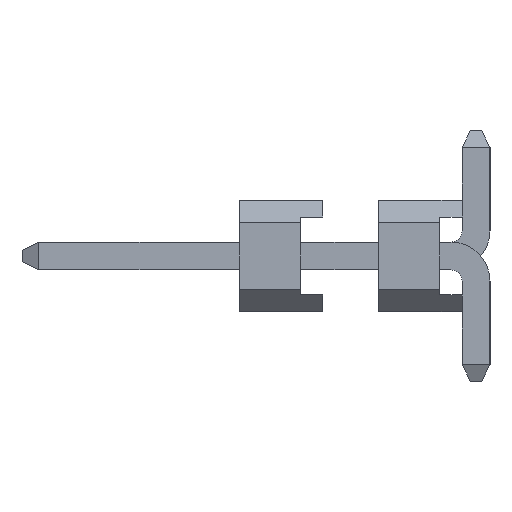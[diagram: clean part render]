
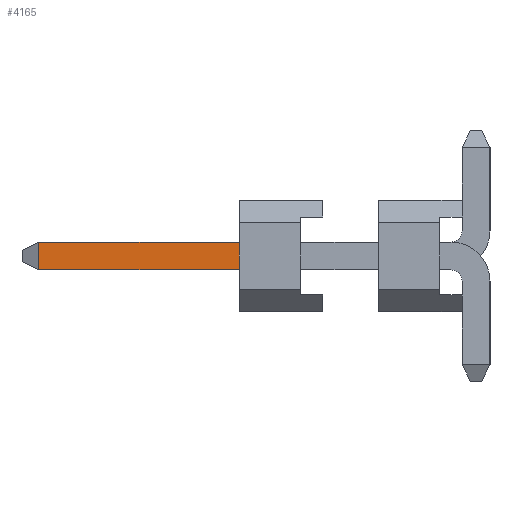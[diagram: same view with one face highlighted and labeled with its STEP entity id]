
A CAD part, left-side view. The second image highlights one B-rep face of the part: STEP entity #4165.
In plain terms, the highlighted planar face has unit normal (-1, 0, 0).
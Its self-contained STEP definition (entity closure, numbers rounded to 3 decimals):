
#3329=FACE_OUTER_BOUND('',#6057,.T.);
#4165=ADVANCED_FACE('',(#3329),#5059,.T.);
#5059=PLANE('',#19882);
#6057=EDGE_LOOP('',(#7206,#7207,#7208,#7209));
#7206=ORIENTED_EDGE('',*,*,#13181,.T.);
#7207=ORIENTED_EDGE('',*,*,#13182,.T.);
#7208=ORIENTED_EDGE('',*,*,#13183,.T.);
#7209=ORIENTED_EDGE('',*,*,#13062,.T.);
#11590=VERTEX_POINT('',#24984);
#11591=VERTEX_POINT('',#24985);
#11668=VERTEX_POINT('',#25223);
#11669=VERTEX_POINT('',#25225);
#13062=EDGE_CURVE('',#11590,#11591,#15366,.T.);
#13181=EDGE_CURVE('',#11591,#11668,#15481,.T.);
#13182=EDGE_CURVE('',#11668,#11669,#15482,.T.);
#13183=EDGE_CURVE('',#11669,#11590,#15483,.T.);
#15366=LINE('',#24983,#17606);
#15481=LINE('',#25222,#17721);
#15482=LINE('',#25224,#17722);
#15483=LINE('',#25226,#17723);
#17606=VECTOR('',#20811,1.);
#17721=VECTOR('',#21018,1.);
#17722=VECTOR('',#21019,1.);
#17723=VECTOR('',#21020,1.);
#19882=AXIS2_PLACEMENT_3D('',#25227,#21021,#21022);
#20811=DIRECTION('',(0.,0.,1.));
#21018=DIRECTION('',(0.,1.,0.));
#21019=DIRECTION('',(0.,0.,-1.));
#21020=DIRECTION('',(0.,-1.,0.));
#21021=DIRECTION('',(-1.,0.,0.));
#21022=DIRECTION('',(0.,1.,0.));
#24983=CARTESIAN_POINT('',(-3.202,4.024,0.5));
#24984=CARTESIAN_POINT('',(-3.202,4.024,0.7));
#24985=CARTESIAN_POINT('',(-3.202,4.024,1.2));
#25222=CARTESIAN_POINT('',(-3.202,5.824,1.2));
#25223=CARTESIAN_POINT('',(-3.202,7.624,1.2));
#25224=CARTESIAN_POINT('',(-3.202,7.624,0.7));
#25225=CARTESIAN_POINT('',(-3.202,7.624,0.7));
#25226=CARTESIAN_POINT('',(-3.202,-1.776,0.7));
#25227=CARTESIAN_POINT('',(-3.202,-1.776,0.5));
